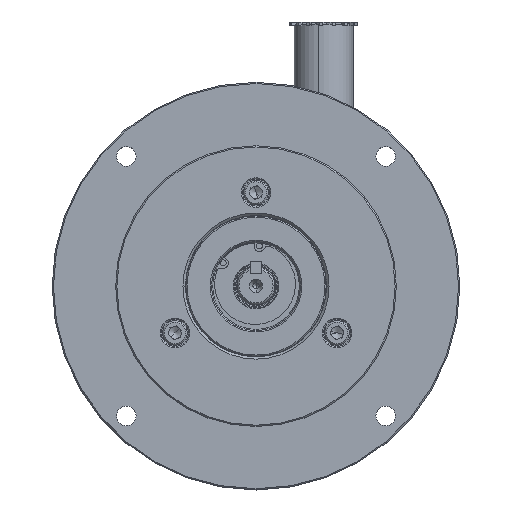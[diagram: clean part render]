
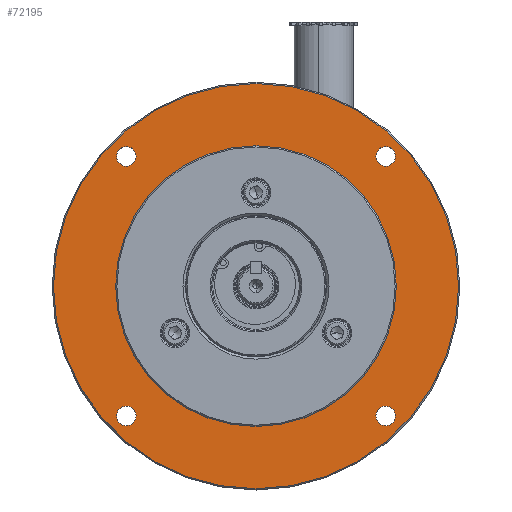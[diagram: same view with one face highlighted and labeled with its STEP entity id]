
A CAD part, top view. The second image highlights one B-rep face of the part: STEP entity #72195.
In plain terms, the highlighted planar face has unit normal (0, 0, 1).
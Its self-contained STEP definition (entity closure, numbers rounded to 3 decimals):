
#1053 = DIRECTION ( 'NONE',  ( -1., 0., 0. ) ) ;
#2094 = EDGE_CURVE ( 'NONE', #55179, #25420, #42666, .T. ) ;
#6434 = DIRECTION ( 'NONE',  ( -1., 0., 0. ) ) ;
#7328 = CARTESIAN_POINT ( 'NONE',  ( 52.821, -48.821, 42.305 ) ) ;
#7465 = DIRECTION ( 'NONE',  ( -1., 0., 0. ) ) ;
#8032 = VERTEX_POINT ( 'NONE', #77172 ) ;
#9871 = AXIS2_PLACEMENT_3D ( 'NONE', #7328, #62412, #6434 ) ;
#10448 = CARTESIAN_POINT ( 'NONE',  ( 0., 4., 42.305 ) ) ;
#10738 = ORIENTED_EDGE ( 'NONE', *, *, #30904, .F. ) ;
#11748 = CIRCLE ( 'NONE', #35166, 57.15 ) ;
#12202 = DIRECTION ( 'NONE',  ( -1., 0., 0. ) ) ;
#13077 = CARTESIAN_POINT ( 'NONE',  ( 56.79, -48.821, 42.305 ) ) ;
#13312 = EDGE_LOOP ( 'NONE', ( #86391, #87610 ) ) ;
#13501 = CARTESIAN_POINT ( 'NONE',  ( -52.821, 56.821, 42.305 ) ) ;
#14117 = EDGE_CURVE ( 'NONE', #8032, #80394, #14741, .T. ) ;
#14741 = CIRCLE ( 'NONE', #89664, 3.969 ) ;
#15444 = DIRECTION ( 'NONE',  ( 0., 0., -1. ) ) ;
#15474 = VERTEX_POINT ( 'NONE', #66788 ) ;
#17349 = CARTESIAN_POINT ( 'NONE',  ( 0., 4., 42.305 ) ) ;
#17751 = DIRECTION ( 'NONE',  ( 0., 0., 1. ) ) ;
#18161 = DIRECTION ( 'NONE',  ( 0., 0., 1. ) ) ;
#20406 = AXIS2_PLACEMENT_3D ( 'NONE', #13501, #28098, #33901 ) ;
#22459 = DIRECTION ( 'NONE',  ( 1., 0., 0. ) ) ;
#22681 = DIRECTION ( 'NONE',  ( 0., 0., 1. ) ) ;
#23038 = ORIENTED_EDGE ( 'NONE', *, *, #47602, .T. ) ;
#24335 = DIRECTION ( 'NONE',  ( 1., 0., 0. ) ) ;
#24549 = AXIS2_PLACEMENT_3D ( 'NONE', #74947, #88395, #40208 ) ;
#24945 = DIRECTION ( 'NONE',  ( 0., 0., -1. ) ) ;
#25420 = VERTEX_POINT ( 'NONE', #80599 ) ;
#25636 = AXIS2_PLACEMENT_3D ( 'NONE', #17349, #24945, #24335 ) ;
#25933 = CARTESIAN_POINT ( 'NONE',  ( 52.821, 56.821, 42.305 ) ) ;
#26047 = CARTESIAN_POINT ( 'NONE',  ( 82.5, 4., 42.305 ) ) ;
#26401 = EDGE_LOOP ( 'NONE', ( #32128, #58943 ) ) ;
#26763 = DIRECTION ( 'NONE',  ( -1., 0., 0. ) ) ;
#27043 = ORIENTED_EDGE ( 'NONE', *, *, #78800, .F. ) ;
#27073 = PLANE ( 'NONE',  #51524 ) ;
#27882 = DIRECTION ( 'NONE',  ( 0., 0., 1. ) ) ;
#28098 = DIRECTION ( 'NONE',  ( 0., 0., 1. ) ) ;
#28541 = FACE_BOUND ( 'NONE', #13312, .T. ) ;
#28610 = AXIS2_PLACEMENT_3D ( 'NONE', #25933, #46866, #12202 ) ;
#28620 = EDGE_CURVE ( 'NONE', #48747, #74872, #53317, .T. ) ;
#28905 = AXIS2_PLACEMENT_3D ( 'NONE', #81356, #17751, #52397 ) ;
#30353 = EDGE_LOOP ( 'NONE', ( #74307, #41812 ) ) ;
#30735 = FACE_BOUND ( 'NONE', #69852, .T. ) ;
#30904 = EDGE_CURVE ( 'NONE', #74872, #48747, #58475, .T. ) ;
#30930 = VERTEX_POINT ( 'NONE', #86801 ) ;
#32128 = ORIENTED_EDGE ( 'NONE', *, *, #67594, .F. ) ;
#33901 = DIRECTION ( 'NONE',  ( -1., 0., 0. ) ) ;
#35166 = AXIS2_PLACEMENT_3D ( 'NONE', #71467, #15444, #22459 ) ;
#38212 = CARTESIAN_POINT ( 'NONE',  ( -52.821, -48.821, 42.305 ) ) ;
#39892 = CARTESIAN_POINT ( 'NONE',  ( 57.15, 4., 42.305 ) ) ;
#40208 = DIRECTION ( 'NONE',  ( -1., 0., 0. ) ) ;
#41251 = CARTESIAN_POINT ( 'NONE',  ( -52.821, -48.821, 42.305 ) ) ;
#41812 = ORIENTED_EDGE ( 'NONE', *, *, #84141, .F. ) ;
#42299 = CARTESIAN_POINT ( 'NONE',  ( -82.5, 4., 42.305 ) ) ;
#42666 = CIRCLE ( 'NONE', #20406, 3.969 ) ;
#43359 = CIRCLE ( 'NONE', #9871, 3.969 ) ;
#44075 = CARTESIAN_POINT ( 'NONE',  ( 0., 4., 42.305 ) ) ;
#45116 = CIRCLE ( 'NONE', #28905, 3.969 ) ;
#46366 = CIRCLE ( 'NONE', #28610, 3.969 ) ;
#46866 = DIRECTION ( 'NONE',  ( 0., 0., 1. ) ) ;
#47362 = VERTEX_POINT ( 'NONE', #63830 ) ;
#47602 = EDGE_CURVE ( 'NONE', #49530, #81182, #11748, .T. ) ;
#48747 = VERTEX_POINT ( 'NONE', #26047 ) ;
#49184 = FACE_BOUND ( 'NONE', #30353, .T. ) ;
#49530 = VERTEX_POINT ( 'NONE', #39892 ) ;
#51524 = AXIS2_PLACEMENT_3D ( 'NONE', #61410, #54426, #26763 ) ;
#52397 = DIRECTION ( 'NONE',  ( -1., 0., 0. ) ) ;
#53288 = DIRECTION ( 'NONE',  ( 1., 0., 0. ) ) ;
#53317 = CIRCLE ( 'NONE', #25636, 82.5 ) ;
#54426 = DIRECTION ( 'NONE',  ( 0., 0., 1. ) ) ;
#54653 = FACE_BOUND ( 'NONE', #78886, .T. ) ;
#55179 = VERTEX_POINT ( 'NONE', #74365 ) ;
#55886 = ORIENTED_EDGE ( 'NONE', *, *, #90150, .F. ) ;
#56841 = EDGE_CURVE ( 'NONE', #81182, #49530, #64927, .T. ) ;
#56994 = EDGE_CURVE ( 'NONE', #30930, #72413, #46366, .T. ) ;
#58475 = CIRCLE ( 'NONE', #72952, 82.5 ) ;
#58709 = DIRECTION ( 'NONE',  ( 0., 0., -1. ) ) ;
#58943 = ORIENTED_EDGE ( 'NONE', *, *, #56994, .F. ) ;
#61410 = CARTESIAN_POINT ( 'NONE',  ( 0., -53.15, 42.305 ) ) ;
#62412 = DIRECTION ( 'NONE',  ( 0., 0., 1. ) ) ;
#62863 = CIRCLE ( 'NONE', #77184, 3.969 ) ;
#63830 = CARTESIAN_POINT ( 'NONE',  ( -48.852, -48.821, 42.305 ) ) ;
#64339 = CARTESIAN_POINT ( 'NONE',  ( 52.821, -48.821, 42.305 ) ) ;
#64927 = CIRCLE ( 'NONE', #74096, 57.15 ) ;
#65536 = CARTESIAN_POINT ( 'NONE',  ( 48.852, 56.821, 42.305 ) ) ;
#65584 = FACE_OUTER_BOUND ( 'NONE', #72128, .T. ) ;
#65886 = ORIENTED_EDGE ( 'NONE', *, *, #28620, .F. ) ;
#66042 = DIRECTION ( 'NONE',  ( 1., 0., 0. ) ) ;
#66788 = CARTESIAN_POINT ( 'NONE',  ( -56.79, -48.821, 42.305 ) ) ;
#67594 = EDGE_CURVE ( 'NONE', #72413, #30930, #72659, .T. ) ;
#69852 = EDGE_LOOP ( 'NONE', ( #23038, #89806 ) ) ;
#71467 = CARTESIAN_POINT ( 'NONE',  ( 0., 4., 42.305 ) ) ;
#72128 = EDGE_LOOP ( 'NONE', ( #65886, #10738 ) ) ;
#72195 = ADVANCED_FACE ( 'NONE', ( #49184, #54653, #75378, #28541, #30735, #65584 ), #27073, .T. ) ;
#72413 = VERTEX_POINT ( 'NONE', #65536 ) ;
#72659 = CIRCLE ( 'NONE', #24549, 3.969 ) ;
#72952 = AXIS2_PLACEMENT_3D ( 'NONE', #44075, #58709, #66042 ) ;
#73409 = DIRECTION ( 'NONE',  ( 0., 0., -1. ) ) ;
#74096 = AXIS2_PLACEMENT_3D ( 'NONE', #10448, #73409, #53288 ) ;
#74307 = ORIENTED_EDGE ( 'NONE', *, *, #14117, .F. ) ;
#74365 = CARTESIAN_POINT ( 'NONE',  ( -56.79, 56.821, 42.305 ) ) ;
#74872 = VERTEX_POINT ( 'NONE', #42299 ) ;
#74947 = CARTESIAN_POINT ( 'NONE',  ( 52.821, 56.821, 42.305 ) ) ;
#75378 = FACE_BOUND ( 'NONE', #26401, .T. ) ;
#77172 = CARTESIAN_POINT ( 'NONE',  ( 48.852, -48.821, 42.305 ) ) ;
#77184 = AXIS2_PLACEMENT_3D ( 'NONE', #41251, #27882, #7465 ) ;
#78800 = EDGE_CURVE ( 'NONE', #15474, #47362, #62863, .T. ) ;
#78886 = EDGE_LOOP ( 'NONE', ( #27043, #55886 ) ) ;
#79339 = DIRECTION ( 'NONE',  ( -1., 0., 0. ) ) ;
#80394 = VERTEX_POINT ( 'NONE', #13077 ) ;
#80599 = CARTESIAN_POINT ( 'NONE',  ( -48.852, 56.821, 42.305 ) ) ;
#81182 = VERTEX_POINT ( 'NONE', #85378 ) ;
#81356 = CARTESIAN_POINT ( 'NONE',  ( -52.821, 56.821, 42.305 ) ) ;
#81524 = EDGE_CURVE ( 'NONE', #25420, #55179, #45116, .T. ) ;
#82236 = CIRCLE ( 'NONE', #90039, 3.969 ) ;
#84141 = EDGE_CURVE ( 'NONE', #80394, #8032, #43359, .T. ) ;
#85378 = CARTESIAN_POINT ( 'NONE',  ( -57.15, 4., 42.305 ) ) ;
#86391 = ORIENTED_EDGE ( 'NONE', *, *, #2094, .F. ) ;
#86801 = CARTESIAN_POINT ( 'NONE',  ( 56.79, 56.821, 42.305 ) ) ;
#87610 = ORIENTED_EDGE ( 'NONE', *, *, #81524, .F. ) ;
#88395 = DIRECTION ( 'NONE',  ( 0., 0., 1. ) ) ;
#89664 = AXIS2_PLACEMENT_3D ( 'NONE', #64339, #22681, #1053 ) ;
#89806 = ORIENTED_EDGE ( 'NONE', *, *, #56841, .T. ) ;
#90039 = AXIS2_PLACEMENT_3D ( 'NONE', #38212, #18161, #79339 ) ;
#90150 = EDGE_CURVE ( 'NONE', #47362, #15474, #82236, .T. ) ;
